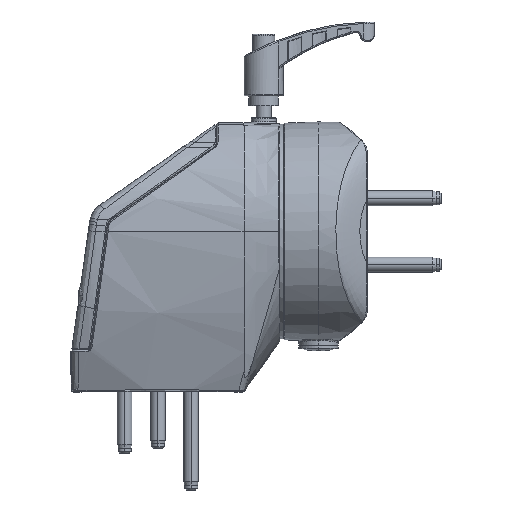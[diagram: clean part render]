
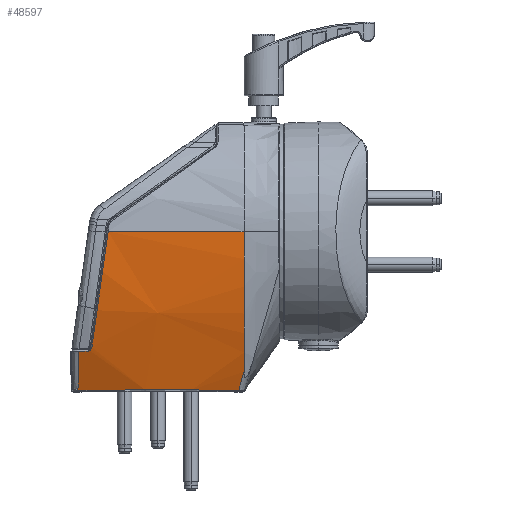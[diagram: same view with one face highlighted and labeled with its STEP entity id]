
A CAD part, left-side view. The second image highlights one B-rep face of the part: STEP entity #48597.
In plain terms, the highlighted free-form (B-spline) face has degree [3, 3] with [5, 5] control points.
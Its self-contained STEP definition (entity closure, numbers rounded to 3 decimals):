
#14835=DIRECTION('',(0.,1.,0.));
#14836=VECTOR('',#14835,55.175);
#14837=CARTESIAN_POINT('',(44.,15.,0.));
#14838=LINE('',#14837,#14836);
#14856=CARTESIAN_POINT('',(29.618,17.142,64.427));
#14857=CARTESIAN_POINT('',(29.942,16.914,63.661));
#14858=CARTESIAN_POINT('',(30.599,16.45,62.085));
#14859=CARTESIAN_POINT('',(31.612,15.732,59.574));
#14860=CARTESIAN_POINT('',(32.294,15.244,57.817));
#14861=CARTESIAN_POINT('',(32.637,14.998,56.916));
#14866=CARTESIAN_POINT('',(29.684,82.445,64.425));
#14867=CARTESIAN_POINT('',(29.917,80.971,64.419));
#14868=CARTESIAN_POINT('',(30.35,78.022,64.409));
#14869=CARTESIAN_POINT('',(30.886,73.768,64.395));
#14870=CARTESIAN_POINT('',(31.368,69.176,64.383));
#14871=CARTESIAN_POINT('',(31.763,64.35,64.372));
#14872=CARTESIAN_POINT('',(32.058,59.248,64.364));
#14873=CARTESIAN_POINT('',(32.228,53.968,64.36));
#14874=CARTESIAN_POINT('',(32.262,48.659,64.359));
#14875=CARTESIAN_POINT('',(32.16,43.417,64.362));
#14876=CARTESIAN_POINT('',(31.928,38.22,64.368));
#14877=CARTESIAN_POINT('',(31.577,33.185,64.377));
#14878=CARTESIAN_POINT('',(31.114,28.244,64.389));
#14879=CARTESIAN_POINT('',(30.503,23.055,64.405));
#14880=CARTESIAN_POINT('',(29.943,19.17,64.419));
#14881=CARTESIAN_POINT('',(29.618,17.142,64.427));
#14886=CARTESIAN_POINT('',(29.684,82.445,64.425));
#14887=CARTESIAN_POINT('',(30.161,82.432,63.41));
#14888=CARTESIAN_POINT('',(31.092,82.405,61.367));
#14889=CARTESIAN_POINT('',(32.424,82.366,58.263));
#14890=CARTESIAN_POINT('',(33.687,82.33,55.124));
#14891=CARTESIAN_POINT('',(34.882,82.295,51.951));
#14892=CARTESIAN_POINT('',(35.631,82.273,49.816));
#14893=CARTESIAN_POINT('',(35.994,82.262,48.743));
#14898=CARTESIAN_POINT('',(36.295,78.734,48.676));
#14899=CARTESIAN_POINT('',(36.263,79.126,48.684));
#14900=CARTESIAN_POINT('',(36.199,79.909,48.699));
#14901=CARTESIAN_POINT('',(36.099,81.085,48.721));
#14902=CARTESIAN_POINT('',(36.029,81.87,48.736));
#14903=CARTESIAN_POINT('',(35.994,82.262,48.743));
#14908=CARTESIAN_POINT('',(36.975,76.784,46.947));
#14909=CARTESIAN_POINT('',(36.914,76.811,47.139));
#14910=CARTESIAN_POINT('',(36.79,76.922,47.519));
#14911=CARTESIAN_POINT('',(36.616,77.241,48.008));
#14912=CARTESIAN_POINT('',(36.467,77.674,48.381));
#14913=CARTESIAN_POINT('',(36.354,78.191,48.617));
#14914=CARTESIAN_POINT('',(36.309,78.551,48.673));
#14915=CARTESIAN_POINT('',(36.295,78.734,48.676));
#14920=CARTESIAN_POINT('',(44.,70.175,0.));
#14921=CARTESIAN_POINT('',(44.,70.748,4.089));
#14922=CARTESIAN_POINT('',(43.697,71.904,12.328));
#14923=CARTESIAN_POINT('',(42.356,73.583,24.273));
#14924=CARTESIAN_POINT('',(40.141,75.222,35.904));
#14925=CARTESIAN_POINT('',(38.132,76.264,43.276));
#14926=CARTESIAN_POINT('',(36.975,76.784,46.947));
#15425=CARTESIAN_POINT('',(32.637,14.998,56.916));
#15463=CARTESIAN_POINT('',(-104.245,15.,0.));
#15464=DIRECTION('',(0.,-1.,0.));
#15465=DIRECTION('',(0.974,0.,0.225));
#15466=AXIS2_PLACEMENT_3D('',#15463,#15464,#15465);
#15471=CARTESIAN_POINT('',(-104.245,15.,0.));
#15472=DIRECTION('',(0.,-1.,0.));
#15473=DIRECTION('',(1.,0.,0.));
#15474=AXIS2_PLACEMENT_3D('',#15471,#15472,#15473);
#25766=CARTESIAN_POINT('',(44.,15.,0.));
#25767=CARTESIAN_POINT('',(40.209,15.,33.31));
#25768=VERTEX_POINT('',#25766);
#25769=VERTEX_POINT('',#25767);
#25790=VERTEX_POINT('',#15425);
#25806=VERTEX_POINT('',#14920);
#25807=VERTEX_POINT('',#14926);
#25986=VERTEX_POINT('',#14856);
#26429=VERTEX_POINT('',#14886);
#26430=VERTEX_POINT('',#14893);
#26856=VERTEX_POINT('',#14898);
#48553=CARTESIAN_POINT('',(28.86,14.329,65.027));
#48554=CARTESIAN_POINT('',(30.946,26.219,65.028));
#48555=CARTESIAN_POINT('',(32.957,49.147,65.029));
#48556=CARTESIAN_POINT('',(31.09,72.076,65.028));
#48557=CARTESIAN_POINT('',(29.293,83.113,65.028));
#48558=CARTESIAN_POINT('',(33.822,14.329,54.947));
#48559=CARTESIAN_POINT('',(35.218,26.219,54.833));
#48560=CARTESIAN_POINT('',(36.63,49.147,54.522));
#48561=CARTESIAN_POINT('',(35.319,72.076,54.811));
#48562=CARTESIAN_POINT('',(34.112,83.113,54.922));
#48563=CARTESIAN_POINT('',(41.505,14.329,33.435));
#48564=CARTESIAN_POINT('',(41.858,26.219,33.179));
#48565=CARTESIAN_POINT('',(42.166,49.147,32.982));
#48566=CARTESIAN_POINT('',(41.88,72.076,33.165));
#48567=CARTESIAN_POINT('',(41.578,83.113,33.382));
#48568=CARTESIAN_POINT('',(44.05,14.329,10.753));
#48569=CARTESIAN_POINT('',(44.045,26.219,10.672));
#48570=CARTESIAN_POINT('',(44.036,49.147,10.699));
#48571=CARTESIAN_POINT('',(44.044,72.076,10.674));
#48572=CARTESIAN_POINT('',(44.049,83.113,10.737));
#48573=CARTESIAN_POINT('',(43.999,14.329,
-0.663));
#48574=CARTESIAN_POINT('',(43.999,26.219,
-0.658));
#48575=CARTESIAN_POINT('',(43.999,49.147,
-0.659));
#48576=CARTESIAN_POINT('',(43.999,72.076,
-0.658));
#48577=CARTESIAN_POINT('',(43.999,83.113,
-0.662));
#48578=B_SPLINE_SURFACE_WITH_KNOTS('',3,3,((#48553,#48554,#48555,#48556,#48557),
(#48558,#48559,#48560,#48561,#48562),(#48563,#48564,#48565,#48566,#48567),(
#48568,#48569,#48570,#48571,#48572),(#48573,#48574,#48575,#48576,#48577)),
.UNSPECIFIED.,.F.,.F.,.F.,(4,1,4),(4,1,4),(0.,0.5,
1.01),(-0.672,35.043,68.197),
.UNSPECIFIED.);
#48580=ORIENTED_EDGE('',*,*,#48579,.F.);
#48582=ORIENTED_EDGE('',*,*,#48581,.F.);
#48584=ORIENTED_EDGE('',*,*,#48583,.T.);
#48586=ORIENTED_EDGE('',*,*,#48585,.F.);
#48588=ORIENTED_EDGE('',*,*,#48587,.F.);
#48589=ORIENTED_EDGE('',*,*,#48537,.F.);
#48590=ORIENTED_EDGE('',*,*,#48440,.F.);
#48592=ORIENTED_EDGE('',*,*,#48591,.T.);
#48594=ORIENTED_EDGE('',*,*,#48593,.T.);
#48595=EDGE_LOOP('',(#48580,#48582,#48584,#48586,#48588,#48589,#48590,#48592,
#48594));
#48596=FACE_OUTER_BOUND('',#48595,.F.);
#14862=B_SPLINE_CURVE_WITH_KNOTS('',3,(#14856,#14857,#14858,#14859,#14860,
#14861),.UNSPECIFIED.,.F.,.F.,(4,1,1,4),(0.,0.333,
0.667,1.),.UNSPECIFIED.);
#14882=B_SPLINE_CURVE_WITH_KNOTS('',3,(#14866,#14867,#14868,#14869,#14870,
#14871,#14872,#14873,#14874,#14875,#14876,#14877,#14878,#14879,#14880,#14881),
.UNSPECIFIED.,.F.,.F.,(4,1,1,1,1,1,1,1,1,1,1,1,1,4),(0.,0.077,
0.154,0.231,0.308,0.385,
0.462,0.538,0.615,0.692,
0.769,0.846,0.923,1.),.UNSPECIFIED.);
#14894=B_SPLINE_CURVE_WITH_KNOTS('',3,(#14886,#14887,#14888,#14889,#14890,
#14891,#14892,#14893),.UNSPECIFIED.,.F.,.F.,(4,1,1,1,1,4),(0.,0.2,0.4,
0.6,0.8,1.),.UNSPECIFIED.);
#14904=B_SPLINE_CURVE_WITH_KNOTS('',3,(#14898,#14899,#14900,#14901,#14902,
#14903),.UNSPECIFIED.,.F.,.F.,(4,1,1,4),(0.,0.333,
0.667,1.),.UNSPECIFIED.);
#14916=B_SPLINE_CURVE_WITH_KNOTS('',3,(#14908,#14909,#14910,#14911,#14912,
#14913,#14914,#14915),.UNSPECIFIED.,.F.,.F.,(4,1,1,1,1,4),(0.,
0.2,0.4,0.6,0.8,1.),
.UNSPECIFIED.);
#14927=B_SPLINE_CURVE_WITH_KNOTS('',3,(#14920,#14921,#14922,#14923,#14924,
#14925,#14926),.UNSPECIFIED.,.F.,.F.,(4,1,1,1,4),(0.,0.25,0.5,0.75,
1.),.UNSPECIFIED.);
#15467=CIRCLE('',#15466,148.245);
#15475=CIRCLE('',#15474,148.245);
#48440=EDGE_CURVE('',#25768,#25806,#14838,.T.);
#48537=EDGE_CURVE('',#25806,#25807,#14927,.T.);
#48579=EDGE_CURVE('',#25986,#25790,#14862,.T.);
#48581=EDGE_CURVE('',#26429,#25986,#14882,.T.);
#48583=EDGE_CURVE('',#26429,#26430,#14894,.T.);
#48585=EDGE_CURVE('',#26856,#26430,#14904,.T.);
#48587=EDGE_CURVE('',#25807,#26856,#14916,.T.);
#48591=EDGE_CURVE('',#25768,#25769,#15475,.T.);
#48593=EDGE_CURVE('',#25769,#25790,#15467,.T.);
#48597=ADVANCED_FACE('',(#48596),#48578,.T.);
